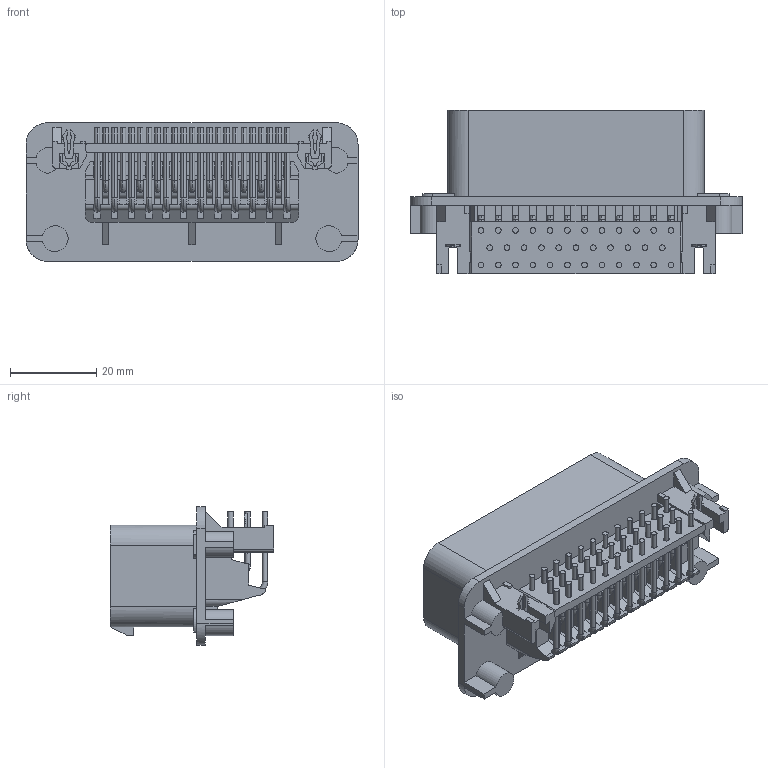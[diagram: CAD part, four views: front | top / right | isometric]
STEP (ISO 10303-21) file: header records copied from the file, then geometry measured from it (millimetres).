
FILE_DESCRIPTION((''),'2;1');
FILE_NAME('C-0776180-14-3','2007-09-02T',('workeradm'),('Tyco Electronics Corporation'),'PRO/ENGINEER BY PARAMETRIC TECHNOLOGY CORPORATION, 2005450','PRO/ENGINEER BY PARAMETRIC TECHNOLOGY CORPORATION, 2005450','');
FILE_SCHEMA(('CONFIG_CONTROL_DESIGN', 'GEOMETRIC_VALIDATION_PROPERTIES_MIM'));
Length unit declared in the file: millimetre
Products named in the file (1): C-0776180-14-3
Bounding box: 76.9 x 37.8 x 32.1 mm (x, y, z)
Volume: 19413.3 mm3; surface area: 21459 mm2
Topology: 1 solids, 1 shells, 1516 faces, 4166 edges, 2714 vertices
Faces by surface type: plane 1039, cylinder 401, torus 70, cone 4, extrusion 2
Entity records: 61368 total; most frequent: CARTESIAN_POINT 9357, ORIENTED_EDGE 8332, DIRECTION 7942, PRESENTATION_STYLE_ASSIGNMENT 4181, STYLED_ITEM 4181, CURVE_STYLE 4166, EDGE_CURVE 4166, VECTOR 3178
